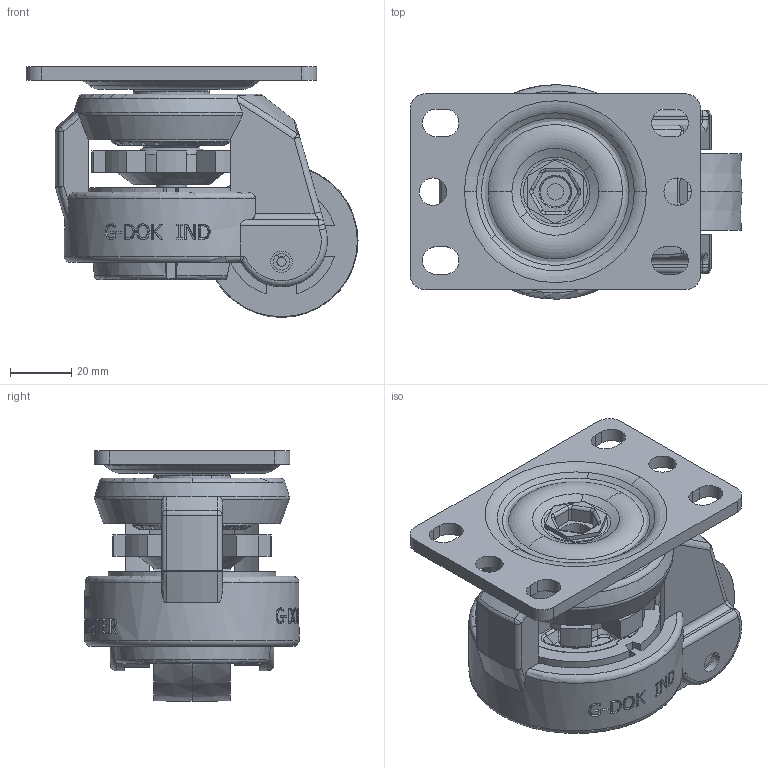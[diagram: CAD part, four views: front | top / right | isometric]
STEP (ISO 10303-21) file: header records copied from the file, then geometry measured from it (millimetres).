
FILE_DESCRIPTION((''),'2;1');
FILE_NAME('GD-60F-US.stp','2014-12-08T09:34:16',(''),(''),'Mechanical Desktop 2009','Mechanical Desktop 2009',', , ');
FILE_SCHEMA(('CONFIG_CONTROL_DESIGN'));
Length unit declared in the file: millimetre
Products named in the file (3): DRAWING3; GD-60F; ABSR2
Assembly tree (2 placements, depth 3):
  DRAWING3
    GD-60F
      ABSR2
Bounding box: 108.5 x 70 x 82 mm (x, y, z)
Volume: 226674.9 mm3; surface area: 72365.5 mm2
Topology: 1 solids, 1 shells, 985 faces, 2670 edges, 1740 vertices
Faces by surface type: plane 426, bspline 219, cylinder 214, cone 82, torus 32, sphere 12
Entity records: 60311 total; most frequent: CARTESIAN_POINT 36328, ORIENTED_EDGE 5308, DIRECTION 4561, EDGE_CURVE 2654, VERTEX_POINT 1738, AXIS2_PLACEMENT_3D 1693, VECTOR 1175, LINE 1175
